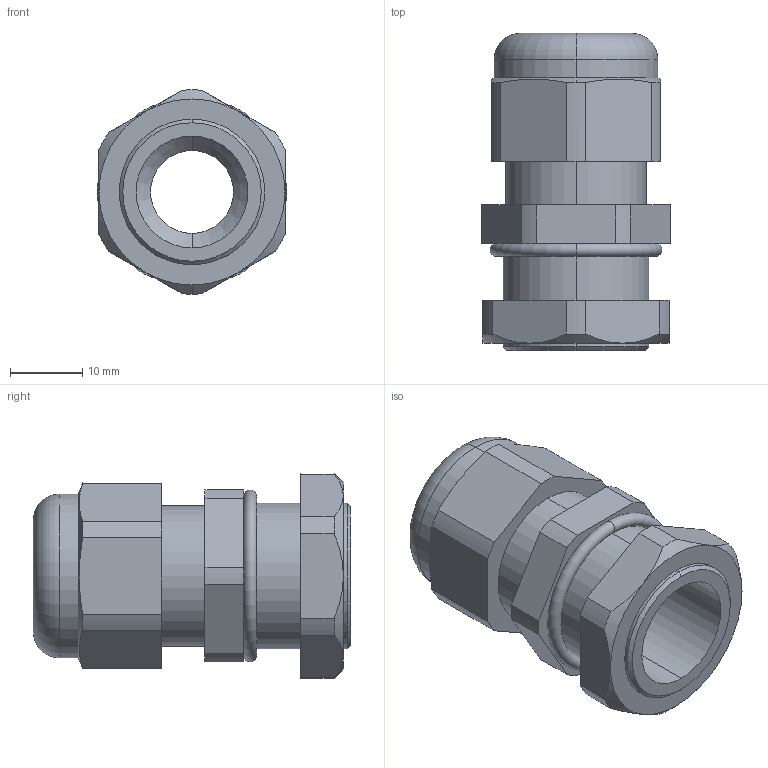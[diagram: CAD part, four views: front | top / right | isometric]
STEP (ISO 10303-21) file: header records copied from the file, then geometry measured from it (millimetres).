
FILE_DESCRIPTION (( 'STEP AP203' ), '1' );
FILE_NAME ('CH-PG13.5L.STEP', '2018-02-07T14:38:15', ( '' ), ( '' ), 'SwSTEP 2.0', 'SolidWorks 2012', '' );
FILE_SCHEMA (( 'CONFIG_CONTROL_DESIGN' ));
Length unit declared in the file: millimetre
Products named in the file (1): CH-PG13.5L
Bounding box: 26.29 x 44 x 28.34 mm (x, y, z)
Volume: 11655 mm3; surface area: 6732.5 mm2
Topology: 1 solids, 1 shells, 78 faces, 189 edges, 118 vertices
Faces by surface type: cylinder 34, plane 25, cone 15, torus 4
Entity records: 2474 total; most frequent: CARTESIAN_POINT 528, DIRECTION 415, ORIENTED_EDGE 378, EDGE_CURVE 189, AXIS2_PLACEMENT_3D 165, VERTEX_POINT 118, CIRCLE 86, VECTOR 85
